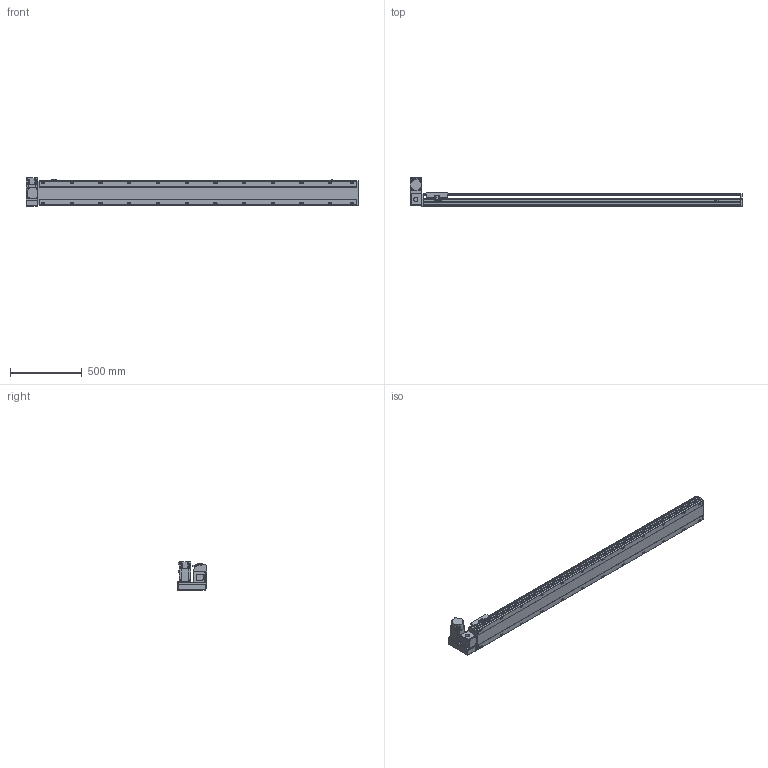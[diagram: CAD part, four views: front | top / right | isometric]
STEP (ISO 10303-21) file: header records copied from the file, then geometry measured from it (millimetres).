
FILE_DESCRIPTION( ( 'STEP AP214' ), '1' );
FILE_NAME( 'x:/temp/worker_4/temp/exporttempdir_2248_410_LZfyD/format_0/PBS170-P40-S1950-LU-T75-C1-N(0).stp', '2022-06-07T08:16:41', ( 'License CC BY-ND 4.0' ), ( 'CADENAS' ), ' ', 'PARTsolutions', ' ' );
FILE_SCHEMA( ( 'AUTOMOTIVE_DESIGN { 1 0 10303 214 1 1 1 1 }' ) );
Length unit declared in the file: millimetre
Products named in the file (7): PBS170-P40-S1950-LU-T75-C1-N(0); _PBS170-S1950()_body; _PBS170T-LU_motors; _T75-p1; _PBS170_sliser; _PBS170_plant; _PBS170_sensor
Assembly tree (8 placements, depth 2):
  PBS170-P40-S1950-LU-T75-C1-N(0)
    _PBS170-S1950()_body
    _PBS170T-LU_motors
    _T75-p1
    _PBS170_sliser
    _PBS170_plant
    _PBS170_sensor  x3
Bounding box: 2313 x 206 x 197.3 mm (x, y, z)
Volume: 17760039.4 mm3; surface area: 2256627.2 mm2
Topology: 8 solids, 8 shells, 1146 faces, 3035 edges, 1978 vertices
Faces by surface type: plane 711, cylinder 371, cone 54, sphere 8, torus 2
Full cylindrical faces by diameter (mm): 3.242 x4, 4 x2, 4.4 x4, 4.5 x6, 4.917 x4, 6 x9, 6.647 x32, 7 x2, 7.5 x4, 8 x8, 8.5 x24, 10 x4, 10.5 x24, 11 x2, 30 x2, 40 x1, 70 x1
Entity records: 42308 total; most frequent: CARTESIAN_POINT 6893, DIRECTION 5580, ORIENTED_EDGE 5268, EDGE_CURVE 2634, AXIS2_PLACEMENT_3D 1957, VERTEX_POINT 1826, LINE 1666, VECTOR 1666
